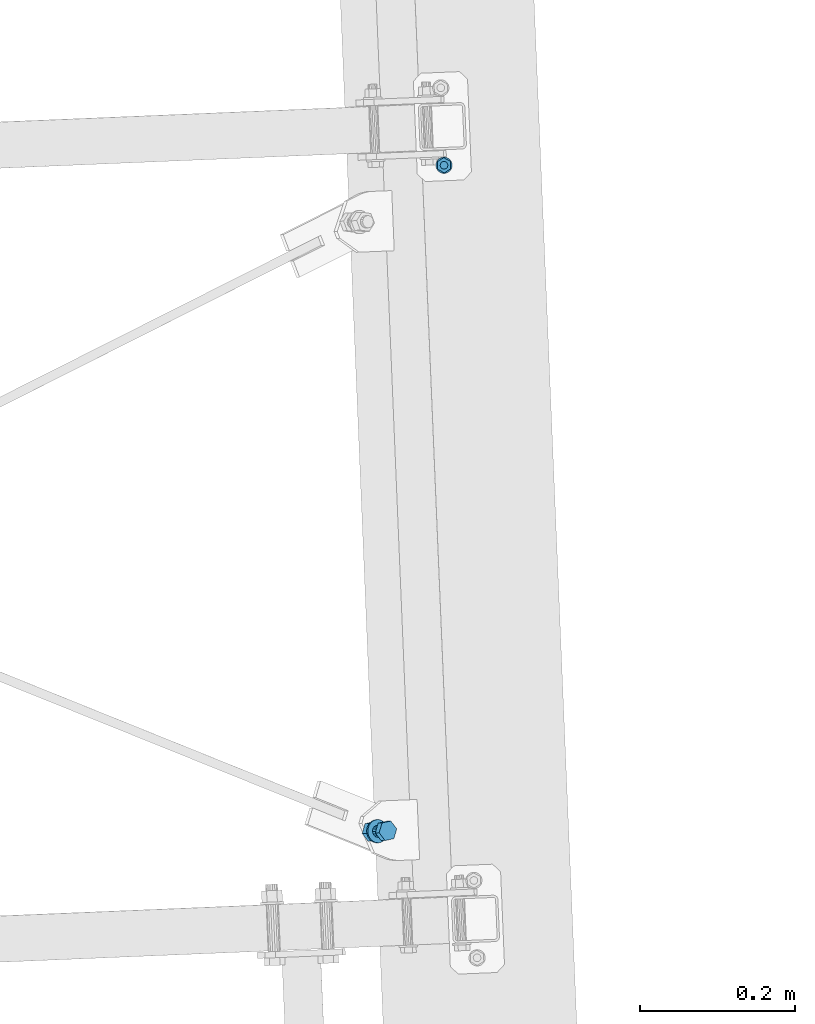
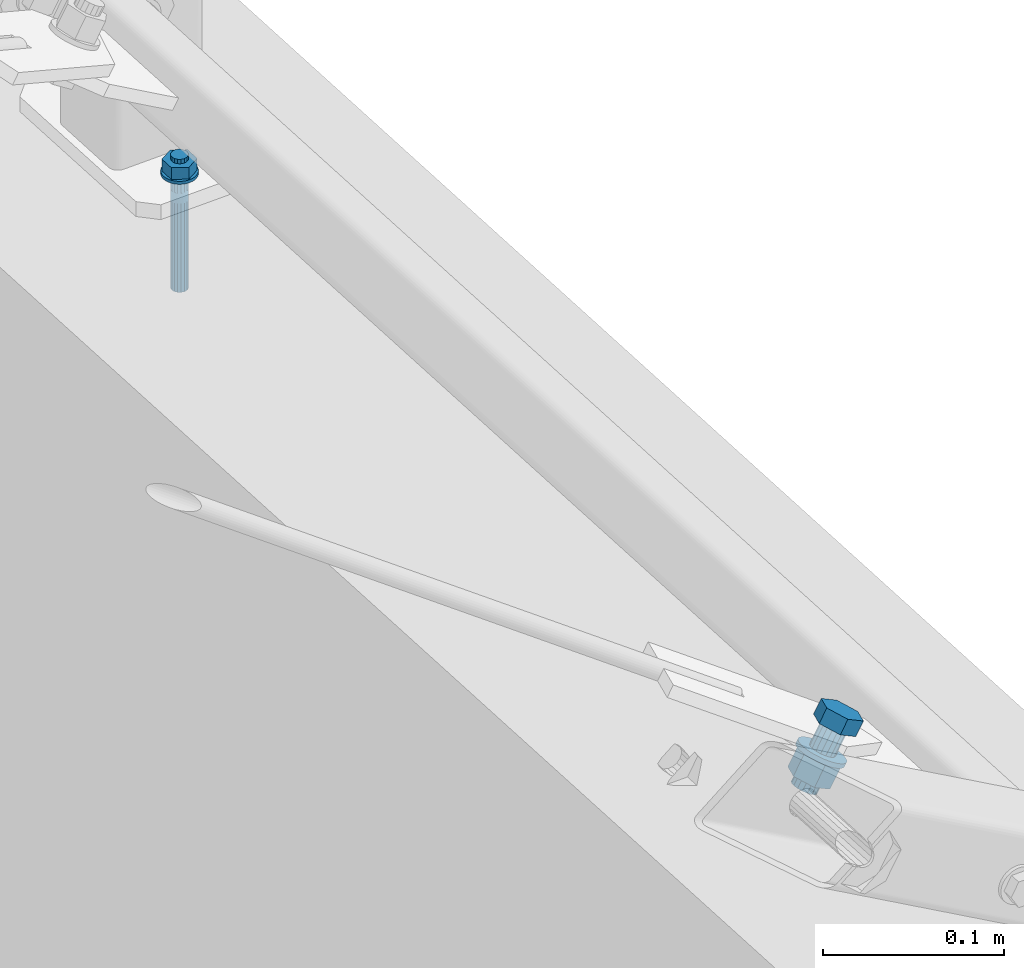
# One storey, part 219 of 288: 2 mechanical fasteners.
"""IFC2X3 building model written with IfcOpenShell, lengths in millimetres."""

import ifcopenshell
import ifcopenshell.guid

model = None  # the IFC model being written
_history = None  # IfcOwnerHistory: only IFC2X3 demands one
_inside = {}  # id of a spatial element -> (the spatial element, [elements in it])
_under = {}  # id of a project, library or spatial element -> (it, [spatial elements below it])
_declared = {}  # id of a project -> (the project, [libraries it declares])
_typed = {}  # id of a type object -> (the type object, [elements of that type])
_made_of = {}  # id of a material, layer set ... -> (it, [elements and type objects made of it])


def new_model(schema):
    """Start an empty IFC model of exactly this schema.

    Asked for "IFC4X3", IfcOpenShell would pick the latest addendum, in which some entities
    have other attributes; the version numbers below select the first issue.
    IFC2X3 requires an IfcOwnerHistory on every rooted entity: one is made here for all.
    """
    global model, _history
    if schema == "IFC4X3":
        model = ifcopenshell.file(schema_version=(4, 3, 0, 0))
    else:
        model = ifcopenshell.file(schema=schema)
    _inside.clear()
    _under.clear()
    _declared.clear()
    _typed.clear()
    _made_of.clear()
    _history = None
    if model.schema == "IFC2X3":
        org = make("IfcOrganization", Name="unknown")
        user = make(
            "IfcPersonAndOrganization",
            ThePerson=make("IfcPerson", FamilyName="unknown"),
            TheOrganization=org,
        )
        app = make(
            "IfcApplication",
            ApplicationDeveloper=org,
            Version="unknown",
            ApplicationFullName="unknown",
            ApplicationIdentifier="unknown",
        )
        _history = make(
            "IfcOwnerHistory",
            OwningUser=user,
            OwningApplication=app,
            ChangeAction="ADDED",
            CreationDate=0,
        )
    return model


def make(cls, **values):
    """One entity of the class cls with the attributes given. An attribute that is None is left unset."""
    return model.create_entity(
        cls, **{name: value for name, value in values.items() if value is not None}
    )


def entity(cls, *values):
    """Any entity or typed value of the class cls, its attributes in the order of the schema. None: left unset."""
    e = model.create_entity(cls)
    for i, value in enumerate(values):
        if value is not None:
            e[i] = value
    return e


def rooted(cls, **values):
    """An entity with a GlobalId (a new one), such as an element, a storey or a relation."""
    return make(cls, GlobalId=ifcopenshell.guid.new(), OwnerHistory=_history, **values)


def si_unit(unit_type, name, prefix=None):
    """IfcSIUnit, for example si_unit("LENGTHUNIT", "METRE", prefix="MILLI")."""
    return make("IfcSIUnit", UnitType=unit_type, Prefix=prefix, Name=name)


def converted_unit(unit_type, name, factor, base, dimensions=None, offset=None):
    """IfcConversionBasedUnit, such as the inch: factor (a typed value) times the base unit."""
    return make(
        "IfcConversionBasedUnit"
        if offset is None
        else "IfcConversionBasedUnitWithOffset",
        ConversionOffset=offset,
        Dimensions=None
        if dimensions is None
        else entity("IfcDimensionalExponents", *dimensions),
        UnitType=unit_type,
        Name=name,
        ConversionFactor=make(
            "IfcMeasureWithUnit", ValueComponent=factor, UnitComponent=base
        ),
    )


def assignment(units):
    """IfcUnitAssignment: the units of a project."""
    return None if units is None else make("IfcUnitAssignment", Units=units)


def point(xyz):
    """IfcCartesianPoint."""
    return None if xyz is None else make("IfcCartesianPoint", Coordinates=xyz)


def direction(xyz):
    """IfcDirection."""
    return None if xyz is None else make("IfcDirection", DirectionRatios=xyz)


def frame(location, z_axis=None, x_axis=None):
    """IfcAxis2Placement3D, a coordinate frame: its origin and axes. An axis left out is left unset."""
    return make(
        "IfcAxis2Placement3D",
        Location=point(location),
        Axis=direction(z_axis),
        RefDirection=direction(x_axis),
    )


def origin_with_axes():
    """The frame at (0, 0, 0) with the z axis (0, 0, 1) and the x axis (1, 0, 0) written out."""
    return frame((0.0, 0.0, 0.0), z_axis=(0.0, 0.0, 1.0), x_axis=(1.0, 0.0, 0.0))


def place(relative_to, where):
    """IfcLocalPlacement: puts the frame where relative to a parent placement (None: the world)."""
    return make(
        "IfcLocalPlacement", PlacementRelTo=relative_to, RelativePlacement=where
    )


def context(
    kind, dimensions, precision=None, world=None, true_north=None, identifier=None
):
    """IfcGeometricRepresentationContext, for example the 3D "Model" context."""
    return make(
        "IfcGeometricRepresentationContext",
        ContextIdentifier=identifier,
        ContextType=kind,
        CoordinateSpaceDimension=dimensions,
        Precision=precision,
        WorldCoordinateSystem=world,
        TrueNorth=true_north,
    )


def project(units=None, contexts=None):
    """IfcProject with its units and contexts."""
    return rooted(
        "IfcProject",
        Name="project",
        RepresentationContexts=contexts,
        UnitsInContext=assignment(units),
    )


def spatial(cls, under=None, at=None, **own):
    """A site, building, storey or space (cls), placed at a placement, below another one or the project."""
    s = rooted(cls, ObjectPlacement=at, **own)
    if under is not None:
        _under.setdefault(under.id(), (under, []))[1].append(s)
    return s


def faces_of(points, faces, orient=None, outer=None):
    """IfcFace entities. A face is a list of loops; a loop is a list of indices into points, from 0.

    orient and outer hold one flag for each loop. By default every Orientation is true, the
    first loop of a face is its IfcFaceOuterBound and the others are IfcFaceBound.
    """
    made = []
    for i, loops in enumerate(faces):
        bounds = []
        for j, loop in enumerate(loops):
            is_outer = j == 0 if outer is None else outer[i][j]
            bounds.append(
                make(
                    "IfcFaceOuterBound" if is_outer else "IfcFaceBound",
                    Bound=make("IfcPolyLoop", Polygon=[points[k] for k in loop]),
                    Orientation=True if orient is None else orient[i][j],
                )
            )
        made.append(make("IfcFace", Bounds=bounds))
    return made


def faceted_brep(points, faces, orient=None, outer=None, voids=None):
    """IfcFacetedBrep: a solid bounded by flat faces; with voids (closed shells), ...WithVoids."""
    shared = [point(p) for p in points]
    hull = make("IfcClosedShell", CfsFaces=faces_of(shared, faces, orient, outer))
    if voids is None:
        return make("IfcFacetedBrep", Outer=hull)
    return make(
        "IfcFacetedBrepWithVoids",
        Outer=hull,
        Voids=[
            make(cls, CfsFaces=faces_of(shared, fs, o, b)) for cls, fs, o, b in voids
        ],
    )


def shape(context_of_items, identifier, shape_type, items):
    """IfcShapeRepresentation: the items that make up one representation, for example the "Body"."""
    return make(
        "IfcShapeRepresentation",
        ContextOfItems=context_of_items,
        RepresentationIdentifier=identifier,
        RepresentationType=shape_type,
        Items=items,
    )


def made_of(thing, what):
    """Note that an element or type object is made of a material, layer set ...; save() writes the relation."""
    if what is not None:
        _made_of.setdefault(what.id(), (what, []))[1].append(thing)
    return thing


def element(
    cls,
    number,
    at=None,
    inside=None,
    cuts=None,
    type_object=None,
    material=None,
    context=None,
    identifier="Body",
    shape_type=None,
    held_by="IfcProductDefinitionShape",
    body=None,
    shapes=None,
    **own,
):
    """One element of the class cls, such as IfcWall. Its Tag is "e" and its number.

    at: its placement. inside: the storey or other place that contains it. cuts: it is an
    opening in that element (IfcRelVoidsElement). A single representation is given by context,
    identifier, shape_type and body (its items); several are given by shapes. held_by: the class
    of the entity that holds the representations. save() writes the other relations.
    """
    e = rooted(cls, Tag="e%d" % number, ObjectPlacement=at, **own)
    if body is not None:
        shapes = [shape(context, identifier, shape_type, body)]
    if shapes is not None:
        e.Representation = make(held_by, Representations=shapes)
    if inside is not None:
        _inside.setdefault(inside.id(), (inside, []))[1].append(e)
    if cuts is not None:
        rooted(
            "IfcRelVoidsElement", RelatingBuildingElement=cuts, RelatedOpeningElement=e
        )
    if type_object is not None:
        _typed.setdefault(type_object.id(), (type_object, []))[1].append(e)
    return made_of(e, material)


def aggregate(whole, parts):
    """IfcRelAggregates: a whole, such as a stair, and the parts it consists of."""
    return rooted("IfcRelAggregates", RelatingObject=whole, RelatedObjects=parts)


def save(model, path):
    """Write the relations noted so far, then the file.

    IfcRelAggregates (storeys below a building ...), IfcRelContainedInSpatialStructure (elements
    in a storey), IfcRelDefinesByType, IfcRelAssociatesMaterial and IfcRelDeclares: one each for
    every whole, place, type object, material and project.
    """
    for whole, parts in _under.values():
        aggregate(whole, parts)
    for where, things in _inside.values():
        rooted(
            "IfcRelContainedInSpatialStructure",
            RelatedElements=things,
            RelatingStructure=where,
        )
    for kind, things in _typed.values():
        rooted("IfcRelDefinesByType", RelatedObjects=things, RelatingType=kind)
    for what, things in _made_of.values():
        rooted("IfcRelAssociatesMaterial", RelatedObjects=things, RelatingMaterial=what)
    for by, libraries in _declared.values():
        rooted("IfcRelDeclares", RelatingContext=by, RelatedDefinitions=libraries)
    model.write(path)


model = new_model("IFC2X3")

# Units and contexts
model_context = context("Model", 3, precision=1e-09, world=origin_with_axes())
ifc_project = project(units=[si_unit("LENGTHUNIT", "METRE", prefix="MILLI"), si_unit("AREAUNIT", "SQUARE_METRE"), si_unit("VOLUMEUNIT", "CUBIC_METRE"), converted_unit("PLANEANGLEUNIT", "DEGREE", entity("IfcPlaneAngleMeasure", 0.01745329), si_unit("PLANEANGLEUNIT", "RADIAN"), dimensions=[0, 0, 0, 0, 0, 0, 0])], contexts=[model_context])

# Site, building, storey
site_placement = place(None, origin_with_axes())
site = spatial("IfcSite", under=ifc_project, at=site_placement, Name="Remont ?wietlik?w nad MC w NCPP w Opolu", CompositionType="ELEMENT")
building_placement = place(site_placement, origin_with_axes())
building = spatial("IfcBuilding", under=site, at=building_placement, Name="Konstrukcja 1", CompositionType="ELEMENT")
storey_placement = place(building_placement, origin_with_axes())
storey = spatial("IfcBuildingStorey", under=building, at=storey_placement, Name="Default Storey", CompositionType="ELEMENT", Elevation=0.0)

# Mechanical fasteners
mechanical_fastener_1_placement = place(None, origin_with_axes())
element("IfcMechanicalFastener", 1, at=mechanical_fastener_1_placement, inside=storey, ObjectType="Anchor_Bolt", NominalDiameter=10.0, NominalLength=90.0, context=model_context, shape_type="Brep", body=[
    faceted_brep([(1687.248059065, 5027.337256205, 12.000000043), (1687.248059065, 5027.337256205, 10.000000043), (1686.961117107, 5029.375517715, 10.000000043), (1686.961117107, 5029.375517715, 12.000000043), (1686.282043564, 5031.318635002, 10.000000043), (1686.282043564, 5031.318635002, 12.000000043), (1685.236934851, 5033.09193516, 10.000000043), (1685.236934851, 5033.09193516, 12.000000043), (1683.86595391, 5034.627271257, 10.000000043), (1683.86595391, 5034.627271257, 12.000000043), (1682.22178677, 5035.865641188, 10.000000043), (1682.22178677, 5035.865641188, 12.000000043), (1680.367617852, 5036.759455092, 10.000000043), (1680.367617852, 5036.759455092, 12.000000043), (1678.374701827, 5037.274364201, 10.000000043), (1678.374701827, 5037.274364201, 12.000000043), (1676.319625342, 5037.390580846, 10.000000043), (1676.319625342, 5037.390580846, 12.000000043), (1674.281363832, 5037.103638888, 10.000000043), (1674.281363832, 5037.103638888, 12.000000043), (1672.338246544, 5036.424565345, 10.000000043), (1672.338246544, 5036.424565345, 12.000000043), (1670.564946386, 5035.379456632, 10.000000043), (1670.564946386, 5035.379456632, 12.000000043), (1669.029610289, 5034.008475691, 10.000000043), (1669.029610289, 5034.008475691, 12.000000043), (1667.791240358, 5032.364308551, 10.000000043), (1667.791240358, 5032.364308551, 12.000000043), (1666.897426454, 5030.510139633, 10.000000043), (1666.897426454, 5030.510139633, 12.000000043), (1666.382517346, 5028.517223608, 10.000000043), (1666.382517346, 5028.517223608, 12.000000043), (1666.2663007, 5026.462147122, 10.000000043), (1666.2663007, 5026.462147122, 12.000000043), (1666.553242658, 5024.423885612, 10.000000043), (1666.553242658, 5024.423885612, 12.000000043), (1667.232316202, 5022.480768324, 10.000000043), (1667.232316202, 5022.480768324, 12.000000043), (1668.277424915, 5020.707468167, 10.000000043), (1668.277424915, 5020.707468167, 12.000000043), (1669.648405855, 5019.17213207, 10.000000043), (1669.648405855, 5019.17213207, 12.000000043), (1671.292572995, 5017.933762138, 10.000000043), (1671.292572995, 5017.933762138, 12.000000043), (1673.146741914, 5017.039948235, 10.000000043), (1673.146741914, 5017.039948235, 12.000000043), (1675.139657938, 5016.525039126, 10.000000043), (1675.139657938, 5016.525039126, 12.000000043), (1677.194734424, 5016.408822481, 10.000000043), (1677.194734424, 5016.408822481, 12.000000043), (1679.232995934, 5016.695764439, 10.000000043), (1679.232995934, 5016.695764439, 12.000000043), (1681.176113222, 5017.374837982, 10.000000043), (1681.176113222, 5017.374837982, 12.000000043), (1682.94941338, 5018.419946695, 10.000000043), (1682.94941338, 5018.419946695, 12.000000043), (1684.484749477, 5019.790927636, 10.000000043), (1684.484749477, 5019.790927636, 12.000000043), (1685.723119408, 5021.435094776, 10.000000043), (1685.723119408, 5021.435094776, 12.000000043), (1686.616933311, 5023.289263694, 10.000000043), (1686.616933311, 5023.289263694, 12.000000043), (1687.13184242, 5025.282179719, 10.000000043), (1687.13184242, 5025.282179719, 12.000000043)], [[[0, 1, 2, 3]], [[3, 2, 4, 5]], [[5, 4, 6, 7]], [[7, 6, 8, 9]], [[9, 8, 10, 11]], [[11, 10, 12, 13]], [[13, 12, 14, 15]], [[15, 14, 16, 17]], [[17, 16, 18, 19]], [[19, 18, 20, 21]], [[21, 20, 22, 23]], [[23, 22, 24, 25]], [[25, 24, 26, 27]], [[27, 26, 28, 29]], [[29, 28, 30, 31]], [[31, 30, 32, 33]], [[33, 32, 34, 35]], [[35, 34, 36, 37]], [[37, 36, 38, 39]], [[39, 38, 40, 41]], [[41, 40, 42, 43]], [[43, 42, 44, 45]], [[45, 44, 46, 47]], [[47, 46, 48, 49]], [[49, 48, 50, 51]], [[51, 50, 52, 53]], [[53, 52, 54, 55]], [[55, 54, 56, 57]], [[57, 56, 58, 59]], [[59, 58, 60, 61]], [[61, 60, 62, 63]], [[63, 62, 1, 0]], [[0, 3, 5, 7, 9, 11, 13, 15, 17, 19, 21, 23, 25, 27, 29, 31, 33, 35, 37, 39, 41, 43, 45, 47, 49, 51, 53, 55, 57, 59, 61, 63]], [[1, 62, 60, 58, 56, 54, 52, 50, 48, 46, 44, 42, 40, 38, 36, 34, 32, 30, 28, 26, 24, 22, 20, 18, 16, 14, 12, 10, 8, 6, 4, 2]]]),
    faceted_brep([(1668.073311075, 5031.441774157, 12.000000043), (1668.073311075, 5031.441774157, 20.000000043), (1676.348795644, 5036.691188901, 20.000000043), (1676.348795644, 5036.691188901, 12.000000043), (1685.032664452, 5032.149116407, 20.000000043), (1685.032664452, 5032.149116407, 12.000000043), (1685.44104869, 5022.35762917, 20.000000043), (1685.44104869, 5022.35762917, 12.000000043), (1677.165564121, 5017.108214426, 20.000000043), (1677.165564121, 5017.108214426, 12.000000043), (1668.481695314, 5021.65028692, 20.000000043), (1668.481695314, 5021.65028692, 12.000000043)], [[[0, 1, 2, 3]], [[3, 2, 4, 5]], [[5, 4, 6, 7]], [[7, 6, 8, 9]], [[9, 8, 10, 11]], [[11, 10, 1, 0]], [[4, 2, 1, 10, 8, 6]], [[0, 3, 5, 7, 9, 11]]]),
    faceted_brep([(1681.752836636, 5027.108060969, 23.000000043), (1681.752836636, 5027.108060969, 20.000000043), (1681.292829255, 5029.003955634, 20.000000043), (1681.292829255, 5029.003955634, 23.000000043), (1680.142310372, 5030.579496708, 20.000000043), (1680.142310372, 5030.579496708, 23.000000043), (1678.476436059, 5031.594822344, 20.000000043), (1678.476436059, 5031.594822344, 23.000000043), (1676.548820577, 5031.895358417, 20.000000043), (1676.548820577, 5031.895358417, 23.000000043), (1674.652925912, 5031.435351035, 20.000000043), (1674.652925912, 5031.435351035, 23.000000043), (1673.077384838, 5030.284832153, 20.000000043), (1673.077384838, 5030.284832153, 23.000000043), (1672.062059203, 5028.618957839, 20.000000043), (1672.062059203, 5028.618957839, 23.000000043), (1671.761523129, 5026.691342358, 20.000000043), (1671.761523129, 5026.691342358, 23.000000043), (1672.221530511, 5024.795447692, 20.000000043), (1672.221530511, 5024.795447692, 23.000000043), (1673.372049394, 5023.219906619, 20.000000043), (1673.372049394, 5023.219906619, 23.000000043), (1675.037923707, 5022.204580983, 20.000000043), (1675.037923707, 5022.204580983, 23.000000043), (1676.965539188, 5021.90404491, 20.000000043), (1676.965539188, 5021.90404491, 23.000000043), (1678.861433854, 5022.364052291, 20.000000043), (1678.861433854, 5022.364052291, 23.000000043), (1680.436974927, 5023.514571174, 20.000000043), (1680.436974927, 5023.514571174, 23.000000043), (1681.452300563, 5025.180445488, 20.000000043), (1681.452300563, 5025.180445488, 23.000000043)], [[[0, 1, 2, 3]], [[3, 2, 4, 5]], [[5, 4, 6, 7]], [[7, 6, 8, 9]], [[9, 8, 10, 11]], [[11, 10, 12, 13]], [[13, 12, 14, 15]], [[15, 14, 16, 17]], [[17, 16, 18, 19]], [[19, 18, 20, 21]], [[21, 20, 22, 23]], [[23, 22, 24, 25]], [[25, 24, 26, 27]], [[27, 26, 28, 29]], [[29, 28, 30, 31]], [[31, 30, 1, 0]], [[0, 3, 5, 7, 9, 11, 13, 15, 17, 19, 21, 23, 25, 27, 29, 31]], [[1, 30, 28, 26, 24, 22, 20, 18, 16, 14, 12, 10, 8, 6, 4, 2]]]),
    faceted_brep([(1681.752836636, 5027.108060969, 10.000000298), (1681.752836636, 5027.108060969, 4.3e-08), (1681.292829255, 5029.003955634, 4.3e-08), (1681.292829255, 5029.003955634, 10.000000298), (1680.142310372, 5030.579496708, 4.3e-08), (1680.142310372, 5030.579496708, 10.000000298), (1678.476436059, 5031.594822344, 4.3e-08), (1678.476436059, 5031.594822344, 10.000000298), (1676.548820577, 5031.895358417, 4.3e-08), (1676.548820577, 5031.895358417, 10.000000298), (1674.652925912, 5031.435351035, 4.3e-08), (1674.652925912, 5031.435351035, 10.000000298), (1673.077384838, 5030.284832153, 4.3e-08), (1673.077384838, 5030.284832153, 10.000000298), (1672.062059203, 5028.618957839, 4.3e-08), (1672.062059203, 5028.618957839, 10.000000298), (1671.761523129, 5026.691342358, 4.3e-08), (1671.761523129, 5026.691342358, 10.000000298), (1672.221530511, 5024.795447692, 4.3e-08), (1672.221530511, 5024.795447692, 10.000000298), (1673.372049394, 5023.219906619, 4.3e-08), (1673.372049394, 5023.219906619, 10.000000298), (1675.037923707, 5022.204580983, 4.3e-08), (1675.037923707, 5022.204580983, 10.000000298), (1676.965539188, 5021.90404491, 4.3e-08), (1676.965539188, 5021.90404491, 10.000000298), (1678.861433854, 5022.364052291, 4.3e-08), (1678.861433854, 5022.364052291, 10.000000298), (1680.436974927, 5023.514571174, 4.3e-08), (1680.436974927, 5023.514571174, 10.000000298), (1681.452300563, 5025.180445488, 4.3e-08), (1681.452300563, 5025.180445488, 10.000000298)], [[[0, 1, 2, 3]], [[3, 2, 4, 5]], [[5, 4, 6, 7]], [[7, 6, 8, 9]], [[9, 8, 10, 11]], [[11, 10, 12, 13]], [[13, 12, 14, 15]], [[15, 14, 16, 17]], [[17, 16, 18, 19]], [[19, 18, 20, 21]], [[21, 20, 22, 23]], [[23, 22, 24, 25]], [[25, 24, 26, 27]], [[27, 26, 28, 29]], [[29, 28, 30, 31]], [[31, 30, 1, 0]], [[0, 3, 5, 7, 9, 11, 13, 15, 17, 19, 21, 23, 25, 27, 29, 31]], [[1, 30, 28, 26, 24, 22, 20, 18, 16, 14, 12, 10, 8, 6, 4, 2]]]),
    faceted_brep([(1681.752836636, 5027.108060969, -2.13e-07), (1681.752836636, 5027.108060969, -6.999999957), (1681.616197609, 5028.078661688, -6.999999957), (1681.616197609, 5028.078661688, -2.13e-07), (1681.292829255, 5029.003955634, -6.999999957), (1681.292829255, 5029.003955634, -2.13e-07), (1680.795158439, 5029.848384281, -6.999999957), (1680.795158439, 5029.848384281, -2.13e-07), (1680.142310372, 5030.579496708, -6.999999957), (1680.142310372, 5030.579496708, -2.13e-07), (1679.359373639, 5031.169196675, -6.999999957), (1679.359373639, 5031.169196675, -2.13e-07), (1678.476436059, 5031.594822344, -6.999999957), (1678.476436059, 5031.594822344, -2.13e-07), (1677.527428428, 5031.840017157, -6.999999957), (1677.527428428, 5031.840017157, -2.13e-07), (1676.548820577, 5031.895358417, -6.999999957), (1676.548820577, 5031.895358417, -2.13e-07), (1675.578219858, 5031.758719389, -6.999999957), (1675.578219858, 5031.758719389, -2.13e-07), (1674.652925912, 5031.435351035, -6.999999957), (1674.652925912, 5031.435351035, -2.13e-07), (1673.808497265, 5030.93768022, -6.999999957), (1673.808497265, 5030.93768022, -2.13e-07), (1673.077384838, 5030.284832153, -6.999999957), (1673.077384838, 5030.284832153, -2.13e-07), (1672.487684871, 5029.501895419, -6.999999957), (1672.487684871, 5029.501895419, -2.13e-07), (1672.062059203, 5028.618957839, -6.999999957), (1672.062059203, 5028.618957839, -2.13e-07), (1671.816864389, 5027.669950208, -6.999999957), (1671.816864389, 5027.669950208, -2.13e-07), (1671.761523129, 5026.691342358, -6.999999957), (1671.761523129, 5026.691342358, -2.13e-07), (1671.898162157, 5025.720741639, -6.999999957), (1671.898162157, 5025.720741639, -2.13e-07), (1672.221530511, 5024.795447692, -6.999999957), (1672.221530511, 5024.795447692, -2.13e-07), (1672.719201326, 5023.951019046, -6.999999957), (1672.719201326, 5023.951019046, -2.13e-07), (1673.372049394, 5023.219906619, -6.999999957), (1673.372049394, 5023.219906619, -2.13e-07), (1674.154986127, 5022.630206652, -6.999999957), (1674.154986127, 5022.630206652, -2.13e-07), (1675.037923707, 5022.204580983, -6.999999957), (1675.037923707, 5022.204580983, -2.13e-07), (1675.986931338, 5021.95938617, -6.999999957), (1675.986931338, 5021.95938617, -2.13e-07), (1676.965539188, 5021.90404491, -6.999999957), (1676.965539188, 5021.90404491, -2.13e-07), (1677.936139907, 5022.040683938, -6.999999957), (1677.936139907, 5022.040683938, -2.13e-07), (1678.861433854, 5022.364052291, -6.999999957), (1678.861433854, 5022.364052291, -2.13e-07), (1679.7058625, 5022.861723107, -6.999999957), (1679.7058625, 5022.861723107, -2.13e-07), (1680.436974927, 5023.514571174, -6.999999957), (1680.436974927, 5023.514571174, -2.13e-07), (1681.026674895, 5024.297507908, -6.999999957), (1681.026674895, 5024.297507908, -2.13e-07), (1681.452300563, 5025.180445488, -6.999999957), (1681.452300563, 5025.180445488, -2.13e-07), (1681.697495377, 5026.129453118, -6.999999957), (1681.697495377, 5026.129453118, -2.13e-07)], [[[0, 1, 2, 3]], [[3, 2, 4, 5]], [[5, 4, 6, 7]], [[7, 6, 8, 9]], [[9, 8, 10, 11]], [[11, 10, 12, 13]], [[13, 12, 14, 15]], [[15, 14, 16, 17]], [[17, 16, 18, 19]], [[19, 18, 20, 21]], [[21, 20, 22, 23]], [[23, 22, 24, 25]], [[25, 24, 26, 27]], [[27, 26, 28, 29]], [[29, 28, 30, 31]], [[31, 30, 32, 33]], [[33, 32, 34, 35]], [[35, 34, 36, 37]], [[37, 36, 38, 39]], [[39, 38, 40, 41]], [[41, 40, 42, 43]], [[43, 42, 44, 45]], [[45, 44, 46, 47]], [[47, 46, 48, 49]], [[49, 48, 50, 51]], [[51, 50, 52, 53]], [[53, 52, 54, 55]], [[55, 54, 56, 57]], [[57, 56, 58, 59]], [[59, 58, 60, 61]], [[61, 60, 62, 63]], [[63, 62, 1, 0]], [[0, 3, 5, 7, 9, 11, 13, 15, 17, 19, 21, 23, 25, 27, 29, 31, 33, 35, 37, 39, 41, 43, 45, 47, 49, 51, 53, 55, 57, 59, 61, 63]], [[1, 62, 60, 58, 56, 54, 52, 50, 48, 46, 44, 42, 40, 38, 36, 34, 32, 30, 28, 26, 24, 22, 20, 18, 16, 14, 12, 10, 8, 6, 4, 2]]]),
    faceted_brep([(1681.752836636, 5027.108060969, -6.999999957), (1681.752836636, 5027.108060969, -66.999999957), (1681.292829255, 5029.003955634, -66.999999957), (1681.292829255, 5029.003955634, -6.999999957), (1680.142310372, 5030.579496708, -66.999999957), (1680.142310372, 5030.579496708, -6.999999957), (1678.476436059, 5031.594822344, -66.999999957), (1678.476436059, 5031.594822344, -6.999999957), (1676.548820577, 5031.895358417, -66.999999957), (1676.548820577, 5031.895358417, -6.999999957), (1674.652925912, 5031.435351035, -66.999999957), (1674.652925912, 5031.435351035, -6.999999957), (1673.077384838, 5030.284832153, -66.999999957), (1673.077384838, 5030.284832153, -6.999999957), (1672.062059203, 5028.618957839, -66.999999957), (1672.062059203, 5028.618957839, -6.999999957), (1671.761523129, 5026.691342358, -66.999999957), (1671.761523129, 5026.691342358, -6.999999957), (1672.221530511, 5024.795447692, -66.999999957), (1672.221530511, 5024.795447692, -6.999999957), (1673.372049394, 5023.219906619, -66.999999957), (1673.372049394, 5023.219906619, -6.999999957), (1675.037923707, 5022.204580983, -66.999999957), (1675.037923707, 5022.204580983, -6.999999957), (1676.965539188, 5021.90404491, -66.999999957), (1676.965539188, 5021.90404491, -6.999999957), (1678.861433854, 5022.364052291, -66.999999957), (1678.861433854, 5022.364052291, -6.999999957), (1680.436974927, 5023.514571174, -66.999999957), (1680.436974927, 5023.514571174, -6.999999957), (1681.452300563, 5025.180445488, -66.999999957), (1681.452300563, 5025.180445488, -6.999999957)], [[[0, 1, 2, 3]], [[3, 2, 4, 5]], [[5, 4, 6, 7]], [[7, 6, 8, 9]], [[9, 8, 10, 11]], [[11, 10, 12, 13]], [[13, 12, 14, 15]], [[15, 14, 16, 17]], [[17, 16, 18, 19]], [[19, 18, 20, 21]], [[21, 20, 22, 23]], [[23, 22, 24, 25]], [[25, 24, 26, 27]], [[27, 26, 28, 29]], [[29, 28, 30, 31]], [[31, 30, 1, 0]], [[0, 3, 5, 7, 9, 11, 13, 15, 17, 19, 21, 23, 25, 27, 29, 31]], [[1, 30, 28, 26, 24, 22, 20, 18, 16, 14, 12, 10, 8, 6, 4, 2]]]),
])
mechanical_fastener_2_placement = place(None, origin_with_axes())
element("IfcMechanicalFastener", 2, at=mechanical_fastener_2_placement, inside=storey, ObjectType="Bolt#1", NominalDiameter=16.0, NominalLength=40.0, context=model_context, shape_type="Brep", body=[
    faceted_brep([(1591.699972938, 4177.331468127, 189.54286348), (1596.707643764, 4177.54012781, 198.196168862), (1608.057730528, 4180.017103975, 191.568141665), (1603.050059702, 4179.808444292, 182.914836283), (1615.708786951, 4169.87543409, 187.38502171), (1610.701116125, 4169.666774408, 178.731716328), (1612.009756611, 4157.256788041, 189.829928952), (1607.002085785, 4157.048128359, 181.17662357), (1600.659669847, 4154.779811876, 196.457956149), (1595.651999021, 4154.571152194, 187.804650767), (1593.008613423, 4164.921481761, 200.641076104), (1588.000942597, 4164.712822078, 191.987770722)], [[[0, 1, 2, 3]], [[3, 2, 4, 5]], [[5, 4, 6, 7]], [[7, 6, 8, 9]], [[9, 8, 10, 11]], [[11, 10, 1, 0]], [[4, 2, 1, 10, 8, 6]], [[0, 3, 5, 7, 9, 11]]]),
    faceted_brep([(1605.91271318, 4164.54294188, 181.626319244), (1597.900439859, 4164.209086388, 167.781030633), (1598.247650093, 4167.298908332, 167.50559417), (1606.259923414, 4167.632763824, 181.350882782), (1597.543043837, 4170.321292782, 167.840470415), (1605.555317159, 4170.655148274, 181.685759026), (1595.893891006, 4172.816109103, 168.734677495), (1603.906164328, 4173.149964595, 182.579966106), (1593.551260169, 4174.403544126, 170.052080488), (1601.56353349, 4174.737399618, 183.8973691), (1590.871795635, 4174.841925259, 171.592116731), (1598.884068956, 4175.175780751, 185.437405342), (1588.263421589, 4174.064512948, 173.120329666), (1596.27569491, 4174.39836844, 186.965618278), (1586.123239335, 4172.189661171, 174.404062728), (1594.135512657, 4172.523516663, 188.249351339), (1584.777072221, 4169.502799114, 175.247879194), (1592.789345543, 4169.836654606, 189.093167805), (1584.429861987, 4166.41297717, 175.523315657), (1592.442135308, 4166.746832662, 189.368604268), (1585.134468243, 4163.39059272, 175.188439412), (1593.146741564, 4163.724448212, 189.033728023), (1586.783621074, 4160.895776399, 174.294232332), (1594.795894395, 4161.229631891, 188.139520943), (1589.126251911, 4159.308341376, 172.976829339), (1597.138525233, 4159.642196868, 186.82211795), (1591.805716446, 4158.869960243, 171.436793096), (1599.817989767, 4159.203815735, 185.282081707), (1594.414090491, 4159.647372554, 169.90858016), (1602.426363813, 4159.981228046, 183.753868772), (1596.554272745, 4161.522224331, 168.624847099), (1604.566546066, 4161.856079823, 182.47013571)], [[[0, 1, 2, 3]], [[3, 2, 4, 5]], [[5, 4, 6, 7]], [[7, 6, 8, 9]], [[9, 8, 10, 11]], [[11, 10, 12, 13]], [[13, 12, 14, 15]], [[15, 14, 16, 17]], [[17, 16, 18, 19]], [[19, 18, 20, 21]], [[21, 20, 22, 23]], [[23, 22, 24, 25]], [[25, 24, 26, 27]], [[27, 26, 28, 29]], [[29, 28, 30, 31]], [[31, 30, 1, 0]], [[0, 3, 5, 7, 9, 11, 13, 15, 17, 19, 21, 23, 25, 27, 29, 31]], [[1, 30, 28, 26, 24, 22, 20, 18, 16, 14, 12, 10, 8, 6, 4, 2]]]),
    faceted_brep([(1603.6419132, 4161.89308707, 164.514284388), (1602.139611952, 4161.830489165, 161.918292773), (1602.712531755, 4164.686719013, 161.517870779), (1604.214833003, 4164.749316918, 164.113862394), (1602.790631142, 4167.623905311, 161.401849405), (1604.292932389, 4167.686503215, 163.99784102), (1602.370908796, 4170.529173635, 161.574687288), (1603.873210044, 4170.59177154, 164.170678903), (1601.469494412, 4173.290876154, 162.029742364), (1602.97179566, 4173.353474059, 164.625733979), (1600.121028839, 4175.802882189, 162.749527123), (1601.623330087, 4175.865480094, 165.345518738), (1598.377332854, 4177.968656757, 163.706380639), (1599.879634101, 4178.031254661, 166.302372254), (1596.305415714, 4179.704970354, 164.863531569), (1597.807716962, 4179.767568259, 167.459523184), (1593.984900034, 4180.945097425, 166.176511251), (1595.487201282, 4181.00769533, 168.772502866), (1591.50496193, 4181.64138058, 167.594862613), (1593.007263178, 4181.703978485, 170.190854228), (1588.960904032, 4181.767062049, 169.064079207), (1590.46320528, 4181.829659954, 171.660070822), (1586.450493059, 4181.317311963, 170.527699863), (1587.952794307, 4181.379909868, 173.123691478), (1584.070202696, 4180.309413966, 171.92947846), (1585.572503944, 4180.372011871, 174.525470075), (1581.911506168, 4178.782101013, 173.215545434), (1583.413807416, 4178.844698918, 175.811537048), (1580.057360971, 4176.794066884, 174.33647795), (1581.559662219, 4176.856664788, 176.932469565), (1578.579020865, 4174.421710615, 175.249199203), (1580.081322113, 4174.484308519, 177.845190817), (1577.533297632, 4171.756200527, 175.918633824), (1579.03559888, 4171.818798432, 178.514625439), (1576.960377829, 4168.899970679, 176.319055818), (1578.462679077, 4168.962568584, 178.915047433), (1576.882278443, 4165.962784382, 176.435077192), (1578.384579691, 4166.025382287, 179.031068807), (1577.302000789, 4163.057516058, 176.262239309), (1578.804302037, 4163.120113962, 178.858230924), (1578.203415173, 4160.295813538, 175.807184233), (1579.705716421, 4160.358411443, 178.403175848), (1579.551880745, 4157.783807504, 175.087399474), (1581.054181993, 4157.846405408, 177.683391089), (1581.295576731, 4155.618032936, 174.130545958), (1582.797877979, 4155.680630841, 176.726537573), (1583.367493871, 4153.881719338, 172.973395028), (1584.869795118, 4153.944317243, 175.569386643), (1585.688009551, 4152.641592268, 171.660415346), (1587.190310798, 4152.704190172, 174.256406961), (1588.167947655, 4151.945309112, 170.242063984), (1589.670248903, 4152.007907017, 172.838055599), (1590.712005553, 4151.819627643, 168.77284739), (1592.2143068, 4151.882225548, 171.368839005), (1593.222416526, 4152.269377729, 167.309226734), (1594.724717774, 4152.331975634, 169.905218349), (1595.602706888, 4153.277275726, 165.907448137), (1597.105008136, 4153.339873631, 168.503439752), (1597.761403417, 4154.80458868, 164.621381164), (1599.263704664, 4154.867186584, 167.217372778), (1599.615548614, 4156.792622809, 163.500448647), (1601.117849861, 4156.855220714, 166.096440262), (1601.093888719, 4159.164979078, 162.587727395), (1602.596189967, 4159.227576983, 165.183719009)], [[[0, 1, 2, 3]], [[3, 2, 4, 5]], [[5, 4, 6, 7]], [[7, 6, 8, 9]], [[9, 8, 10, 11]], [[11, 10, 12, 13]], [[13, 12, 14, 15]], [[15, 14, 16, 17]], [[17, 16, 18, 19]], [[19, 18, 20, 21]], [[21, 20, 22, 23]], [[23, 22, 24, 25]], [[25, 24, 26, 27]], [[27, 26, 28, 29]], [[29, 28, 30, 31]], [[31, 30, 32, 33]], [[33, 32, 34, 35]], [[35, 34, 36, 37]], [[37, 36, 38, 39]], [[39, 38, 40, 41]], [[41, 40, 42, 43]], [[43, 42, 44, 45]], [[45, 44, 46, 47]], [[47, 46, 48, 49]], [[49, 48, 50, 51]], [[51, 50, 52, 53]], [[53, 52, 54, 55]], [[55, 54, 56, 57]], [[57, 56, 58, 59]], [[59, 58, 60, 61]], [[61, 60, 62, 63]], [[63, 62, 1, 0]], [[0, 3, 5, 7, 9, 11, 13, 15, 17, 19, 21, 23, 25, 27, 29, 31, 33, 35, 37, 39, 41, 43, 45, 47, 49, 51, 53, 55, 57, 59, 61, 63]], [[1, 62, 60, 58, 56, 54, 52, 50, 48, 46, 44, 42, 40, 38, 36, 34, 32, 30, 28, 26, 24, 22, 20, 18, 16, 14, 12, 10, 8, 6, 4, 2]]]),
    faceted_brep([(1574.774045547, 4176.626198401, 160.294691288), (1582.185398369, 4176.935014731, 173.101583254), (1593.535485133, 4179.411990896, 166.473556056), (1586.124132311, 4179.103174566, 153.666664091), (1601.186541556, 4169.270321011, 162.290436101), (1593.775188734, 4168.961504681, 149.483544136), (1597.487511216, 4156.651674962, 164.735343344), (1590.076158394, 4156.342858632, 151.928451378), (1586.137424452, 4154.174698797, 171.363370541), (1578.72607163, 4153.865882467, 158.556478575), (1578.486368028, 4164.316368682, 175.546490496), (1571.075015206, 4164.007552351, 162.73959853)], [[[0, 1, 2, 3]], [[3, 2, 4, 5]], [[5, 4, 6, 7]], [[7, 6, 8, 9]], [[9, 8, 10, 11]], [[11, 10, 1, 0]], [[4, 2, 1, 10, 8, 6]], [[0, 3, 5, 7, 9, 11]]]),
    faceted_brep([(1588.986785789, 4163.837672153, 152.378147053), (1585.882029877, 4163.70830315, 147.013097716), (1586.229240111, 4166.798125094, 146.737661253), (1589.333996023, 4166.927494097, 152.10271059), (1585.524633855, 4169.820509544, 147.072537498), (1588.629389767, 4169.949878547, 152.437586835), (1583.875481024, 4172.315325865, 147.966744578), (1586.980236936, 4172.444694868, 153.331793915), (1581.532850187, 4173.902760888, 149.284147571), (1584.637606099, 4174.032129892, 154.649196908), (1578.853385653, 4174.341142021, 150.824183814), (1581.958141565, 4174.470511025, 156.189233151), (1576.245011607, 4173.563729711, 152.352396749), (1579.349767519, 4173.693098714, 157.717446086), (1574.104829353, 4171.688877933, 153.63612981), (1577.209585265, 4171.818246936, 159.001179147), (1572.758662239, 4169.002015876, 154.479946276), (1575.863418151, 4169.13138488, 159.844995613), (1572.411452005, 4165.912193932, 154.755382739), (1575.516207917, 4166.041562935, 160.120432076), (1573.116058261, 4162.889809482, 154.420506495), (1576.220814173, 4163.019178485, 159.785555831), (1574.765211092, 4160.394993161, 153.526299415), (1577.869967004, 4160.524362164, 158.891348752), (1577.107841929, 4158.807558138, 152.208896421), (1580.212597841, 4158.936927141, 157.573945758), (1579.787306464, 4158.369177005, 150.668860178), (1582.892062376, 4158.498546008, 156.033909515), (1582.395680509, 4159.146589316, 149.140647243), (1585.500436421, 4159.275958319, 154.50569658), (1584.535862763, 4161.021441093, 147.856914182), (1587.640618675, 4161.150810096, 153.221963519)], [[[0, 1, 2, 3]], [[3, 2, 4, 5]], [[5, 4, 6, 7]], [[7, 6, 8, 9]], [[9, 8, 10, 11]], [[11, 10, 12, 13]], [[13, 12, 14, 15]], [[15, 14, 16, 17]], [[17, 16, 18, 19]], [[19, 18, 20, 21]], [[21, 20, 22, 23]], [[23, 22, 24, 25]], [[25, 24, 26, 27]], [[27, 26, 28, 29]], [[29, 28, 30, 31]], [[31, 30, 1, 0]], [[0, 3, 5, 7, 9, 11, 13, 15, 17, 19, 21, 23, 25, 27, 29, 31]], [[1, 30, 28, 26, 24, 22, 20, 18, 16, 14, 12, 10, 8, 6, 4, 2]]]),
])

save(model, "model.ifc")
